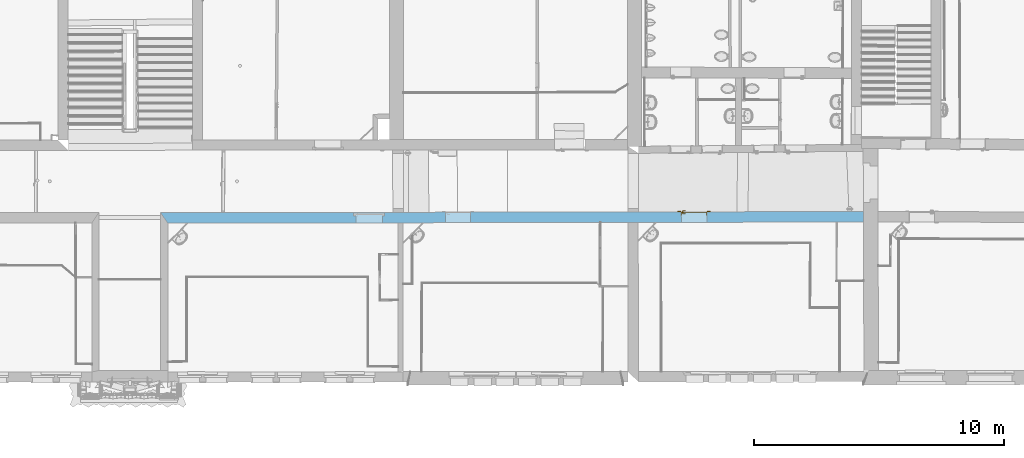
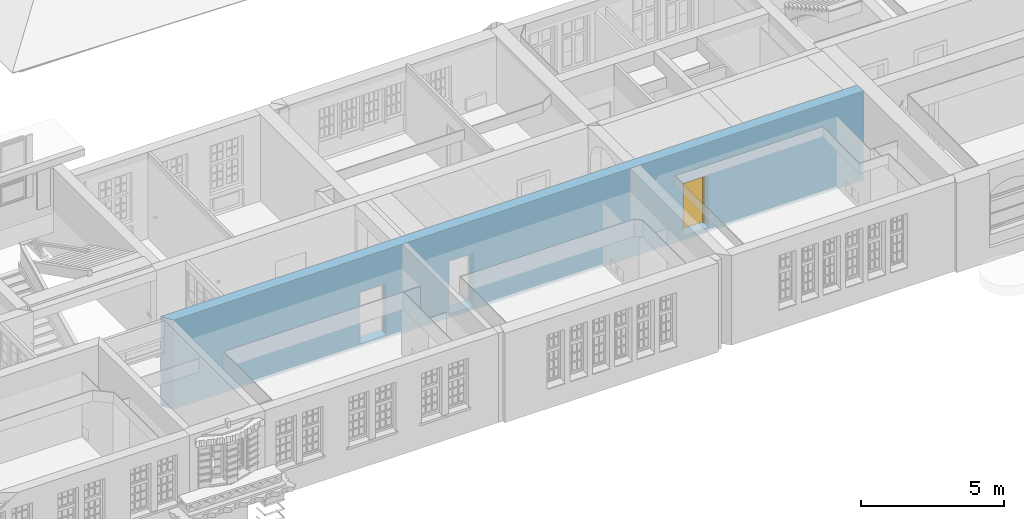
# One storey, part 78 of 158: 1 door, 3 openings, plus 1 element that does not belong to this part.
"""IFC2X3 building model written with IfcOpenShell, lengths in metres."""

from ifc_helpers import new_model, entity, si_unit, converted_unit, derived_unit, money_unit, direction, frame, origin_with_axes, origin_2d_with_axis, place, context, subcontext, project, spatial, polyline, rectangle, outline, extrude, open_shell, faceted_brep, surface_model, material, layer, layer_set, layer_usage, type_object, element, fill, save


model = new_model("IFC2X3")

# Units and contexts
model_context = context("Model", 3, precision=1e-05, world=origin_with_axes(), true_north=direction((0.0, 1.0)))
body_context = subcontext(model_context, "Body", "Model", "MODEL_VIEW")
ifc_project = project(units=[si_unit("LENGTHUNIT", "METRE"), si_unit("AREAUNIT", "SQUARE_METRE"), si_unit("VOLUMEUNIT", "CUBIC_METRE"), converted_unit("PLANEANGLEUNIT", "DEGREE", entity("IfcPlaneAngleMeasure", 0.0174532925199), si_unit("PLANEANGLEUNIT", "RADIAN"), dimensions=[0, 0, 0, 0, 0, 0, 0]), money_unit("EUR"), converted_unit("TIMEUNIT", "Year", entity("IfcTimeMeasure", 31556926.0), si_unit("TIMEUNIT", "SECOND"), dimensions=[0, 0, 1, 0, 0, 0, 0]), si_unit("MASSUNIT", "GRAM", prefix="KILO"), si_unit("THERMODYNAMICTEMPERATUREUNIT", "DEGREE_CELSIUS"), si_unit("LUMINOUSINTENSITYUNIT", "LUMEN"), si_unit("ENERGYUNIT", "JOULE", prefix="MEGA"), derived_unit("THERMALCONDUCTANCEUNIT", [(si_unit("POWERUNIT", "WATT"), 1), (si_unit("LENGTHUNIT", "METRE"), -1), (si_unit("THERMODYNAMICTEMPERATUREUNIT", "KELVIN"), -1)]), derived_unit("SPECIFICHEATCAPACITYUNIT", [(si_unit("ENERGYUNIT", "JOULE"), 1), (si_unit("MASSUNIT", "GRAM", prefix="KILO"), -1), (si_unit("THERMODYNAMICTEMPERATUREUNIT", "KELVIN"), -1)]), derived_unit("MASSDENSITYUNIT", [(si_unit("MASSUNIT", "GRAM", prefix="KILO"), 1), (si_unit("VOLUMEUNIT", "CUBIC_METRE"), -1)])], contexts=[model_context])

# Site, building, storey
site_placement = place(None, origin_with_axes())
site = spatial("IfcSite", under=ifc_project, at=site_placement, Name="Gelände", CompositionType="ELEMENT")
building_placement = place(site_placement, origin_with_axes())
building = spatial("IfcBuilding", under=site, at=building_placement, Name="Gebäude", CompositionType="ELEMENT")
storey_placement = place(building_placement, origin_with_axes())
storey = spatial("IfcBuildingStorey", under=building, at=storey_placement, Name="ERDGESCHOSS", CompositionType="ELEMENT", Elevation=0.0)

# Wall, openings, door
ifc_material = material(Name="05_ALLGEMEIN - TRAGENDE BAUTEILE")
ifc_layer = layer(ifc_material, 0.42, ventilated="UNKNOWN")
ifc_layer_set = layer_set([ifc_layer], Name="05_ALLGEMEIN - TRAGENDE BAUTEILE 0.42")
ifc_layer_usage = layer_usage(ifc_layer_set, "AXIS2", "NEGATIVE", 0.42)
wall_type = type_object("IfcWallType", Name="05_ALLGEMEIN - TRAGENDE BAUTEILE 420", PredefinedType="ELEMENTEDWALL")
wall_placement = place(storey_placement, frame((21.9714720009, 16.8199423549, -0.21), z_axis=(0.0, 0.0, 1.0), x_axis=(-0.999998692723, -0.00161695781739, 0.0)))
wall = element("IfcWallStandardCase", 1, at=wall_placement, inside=storey, type_object=wall_type, material=ifc_layer_usage, Name="Wand-036", ObjectType="ELEMENTEDWALL", context=body_context, shape_type="SweptSolid", body=[
    extrude(outline(polyline([(0.0, 0.0), (28.1196278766, 0.0), (27.8302322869, 0.42), (-0.000643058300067, 0.42), (0.0, 0.0)])), origin_with_axes(), (0.0, 0.0, 1.0), 3.81),
])
opening_1_placement = place(wall_placement, frame((16.2172151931, 0.0, 0.166246), z_axis=(0.0, 0.0, 1.0), x_axis=(1.0, 0.0, 0.0)))
element("IfcOpeningElement", 2, at=opening_1_placement, cuts=wall, Name="Tür-022", context=body_context, shape_type="SweptSolid", body=[
    extrude(rectangle(XDim=1.00454069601, YDim=2.250558, at=origin_2d_with_axis()), frame((0.0, -0.42, 1.125279), z_axis=(0.0, 1.0, 0.0), x_axis=(-1.0, 0.0, 0.0)), (0.0, 0.0, 1.0), 1.26),
])
opening_2_placement = place(wall_placement, frame((6.77188532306, 0.0, 0.188019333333), z_axis=(0.0, 0.0, 1.0), x_axis=(1.0, 0.0, 0.0)))
opening_2 = element("IfcOpeningElement", 3, at=opening_2_placement, cuts=wall, Name="Tür-022", context=body_context, shape_type="SweptSolid", body=[
    extrude(rectangle(XDim=1.03194822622, YDim=2.22878466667, at=origin_2d_with_axis()), frame((0.0, -0.42, 1.11439233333), z_axis=(0.0, 1.0, 0.0), x_axis=(-1.0, 0.0, 0.0)), (0.0, 0.0, 1.0), 1.26),
])
opening_3_placement = place(wall_placement, frame((19.7783409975, 0.0, 0.156249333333), z_axis=(0.0, 0.0, 1.0), x_axis=(1.0, 0.0, 0.0)))
element("IfcOpeningElement", 4, at=opening_3_placement, cuts=wall, Name="Tür-022", context=body_context, shape_type="SweptSolid", body=[
    extrude(rectangle(XDim=1.05907517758, YDim=2.193751, at=origin_2d_with_axis()), frame((0.0, 0.14, 1.0968755), z_axis=(0.0, -1.0, 0.0), x_axis=(-1.0, 0.0, 0.0)), (0.0, 0.0, -1.0), 0.7),
    extrude(rectangle(XDim=1.23907517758, YDim=2.283751, at=origin_2d_with_axis()), frame((0.0, 0.05, 1.1418755), z_axis=(0.0, 1.0, 0.0), x_axis=(-1.0, 0.0, 0.0)), (0.0, 0.0, 1.0), 0.09),
    extrude(rectangle(XDim=1.23907517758, YDim=2.283751, at=origin_2d_with_axis()), frame((0.0, 0.05, 1.1418755), z_axis=(0.0, 1.0, 0.0), x_axis=(-1.0, 0.0, 0.0)), (0.0, 0.0, -1.0), 0.47),
])
door_style = type_object("IfcDoorStyle", Name="Blockrahmentür 1-Fl 25", ConstructionType="NOTDEFINED", OperationType="SINGLE_SWING_RIGHT", ParameterTakesPrecedence=False, Sizeable=False)
door_placement = place(opening_2_placement, frame((0.500974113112, 0.0, 0.0), z_axis=(0.0, 0.0, 1.0), x_axis=(-1.0, 0.0, 0.0)))
door = element("IfcDoor", 5, at=door_placement, inside=storey, type_object=door_style, Name="Tür-022", ObjectType="NOTDEFINED", OverallHeight=2.22878, OverallWidth=1.03195, context=body_context, shape_type="SurfaceModel", body=[
    faceted_brep([(1.01694822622, -0.14, 0.0), (1.01694822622, -0.035, 0.0), (1.01694822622, -0.035, 2.22878466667), (1.01694822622, -0.14, 2.22878466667), (1.00194822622, -0.14, 0.0), (1.00194822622, -0.035, 0.0), (1.00194822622, -0.035, 2.21378466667), (0.616074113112, -0.035, 2.21378466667), (0.501074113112, -0.035, 2.21378466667), (0.0, -0.035, 2.21378466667), (0.0, -0.035, 0.0), (-0.015, -0.035, 0.0), (-0.015, -0.035, 2.22878466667), (-0.015, -0.14, 2.22878466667), (-0.015, -0.14, 0.0), (0.0, -0.14, 0.0), (0.0, -0.14, 2.21378466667), (0.501074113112, -0.14, 2.21378466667), (0.616074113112, -0.14, 2.21378466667), (1.00194822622, -0.14, 2.21378466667)], [[[0, 1, 2, 3]], [[4, 5, 1, 0]], [[1, 5, 6, 7, 8, 9, 10, 11, 12, 2]], [[3, 2, 12, 13]], [[0, 3, 13, 14, 15, 16, 17, 18, 19, 4]], [[19, 6, 5, 4]], [[18, 7, 6, 19]], [[17, 8, 7, 18]], [[16, 9, 8, 17]], [[15, 10, 9, 16]], [[14, 11, 10, 15]], [[13, 12, 11, 14]]]),
    surface_model("IfcShellBasedSurfaceModel", [(1.01694822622, -0.035, 0.0), (1.01694822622, 0.03, 0.0), (1.01694822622, 0.03, 2.22878466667), (1.01694822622, -0.035, 2.22878466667), (1.01694822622, -0.035, 2.22878466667), (1.01694822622, 0.03, 2.22878466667), (0.601074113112, 0.03, 2.22878466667), (0.516074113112, 0.03, 2.22878466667), (-0.015, 0.03, 2.22878466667), (-0.015, 0.03, 2.22878466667), (-0.015, -0.035, 2.22878466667), (0.516074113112, -0.035, 2.22878466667), (0.601074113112, -0.035, 2.22878466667), (-0.015, -0.035, 2.22878466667), (-0.015, -0.035, 0.0), (-0.015, 0.03, 0.0)], [open_shell([[[0, 1, 2, 3]], [[4, 5, 1, 0]], [[6, 7, 8, 2]], [[3, 2, 9, 10]], [[10, 11, 12, 4]], [[12, 6, 5, 4]], [[11, 7, 6, 12]], [[13, 8, 7, 11]], [[14, 15, 8, 13]], [[10, 9, 15, 14]]])]),
    faceted_brep([(1.16194822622, 0.0, 0.0), (1.16194822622, 0.03, 0.0), (1.16194822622, 0.03, 2.37378466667), (1.16194822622, 0.0, 2.37378466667), (1.01694822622, 0.0, 0.0), (1.01694822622, 0.03, 0.0), (1.01694822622, 0.03, 2.22878466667), (-0.015, 0.03, 2.22878466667), (-0.015, 0.03, 0.0), (-0.16, 0.03, 0.0), (-0.16, 0.03, 2.37378466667), (-0.16, 0.0, 2.37378466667), (-0.16, 0.0, 0.0), (-0.015, 0.0, 0.0), (-0.015, 0.0, 2.22878466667), (1.01694822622, 0.0, 2.22878466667)], [[[0, 1, 2, 3]], [[4, 5, 1, 0]], [[1, 5, 6, 7, 8, 9, 10, 2]], [[3, 2, 10, 11]], [[0, 3, 11, 12, 13, 14, 15, 4]], [[15, 6, 5, 4]], [[14, 7, 6, 15]], [[13, 8, 7, 14]], [[12, 9, 8, 13]], [[11, 10, 9, 12]]]),
    faceted_brep([(1.01694822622, 0.002, 0.0), (-0.015, 0.002, 0.0), (-0.015, 0.002, 2.22878466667), (1.01694822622, 0.002, 2.22878466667), (1.01694822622, -0.035, 0.0), (-0.015, -0.035, 0.0), (-0.015, -0.035, 2.22878466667), (1.01694822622, -0.035, 2.22878466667)], [[[0, 1, 2, 3]], [[1, 0, 4, 5]], [[2, 1, 5, 6]], [[3, 2, 6, 7]], [[0, 3, 7, 4]], [[5, 4, 7, 6]]]),
    faceted_brep([(0.0402977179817, -0.075, 1.05647213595), (0.045, -0.075, 1.058), (0.045, -0.055, 1.058), (0.0402977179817, -0.055, 1.05647213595), (0.0373915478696, -0.075, 1.05247213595), (0.0373915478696, -0.075, 1.04752786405), (0.0402977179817, -0.075, 1.04352786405), (0.045, -0.075, 1.042), (0.0497022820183, -0.075, 1.04352786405), (0.0526084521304, -0.075, 1.04752786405), (0.0526084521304, -0.075, 1.05247213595), (0.0497022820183, -0.075, 1.05647213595), (0.0497022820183, -0.055, 1.05647213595), (0.045, -0.053, 1.06), (0.0391221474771, -0.053, 1.05809016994), (0.0373915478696, -0.055, 1.05247213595), (0.0373915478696, -0.055, 1.04752786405), (0.0402977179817, -0.055, 1.04352786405), (0.045, -0.055, 1.042), (0.0497022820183, -0.055, 1.04352786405), (0.0526084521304, -0.055, 1.04752786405), (0.0526084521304, -0.055, 1.05247213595), (0.0508778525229, -0.053, 1.05809016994), (0.045, -0.045, 1.06), (0.0391221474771, -0.045, 1.05809016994), (0.035489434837, -0.053, 1.05309016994), (0.035489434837, -0.053, 1.04690983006), (0.0391221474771, -0.053, 1.04190983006), (0.045, -0.053, 1.04), (0.0508778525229, -0.053, 1.04190983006), (0.054510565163, -0.053, 1.04690983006), (0.054510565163, -0.053, 1.05309016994), (0.0508778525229, -0.045, 1.05809016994), (0.054510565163, -0.045, 1.05309016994), (0.054510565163, -0.045, 1.04690983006), (0.0508778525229, -0.045, 1.04190983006), (0.045, -0.045, 1.04), (0.0391221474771, -0.045, 1.04190983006), (0.035489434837, -0.045, 1.04690983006), (0.035489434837, -0.045, 1.05309016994)], [[[0, 1, 2, 3]], [[1, 0, 4, 5, 6, 7, 8, 9, 10, 11]], [[1, 11, 12, 2]], [[3, 2, 13, 14]], [[4, 0, 3, 15]], [[5, 4, 15, 16]], [[6, 5, 16, 17]], [[7, 6, 17, 18]], [[8, 7, 18, 19]], [[9, 8, 19, 20]], [[10, 9, 20, 21]], [[11, 10, 21, 12]], [[2, 12, 22, 13]], [[14, 13, 23, 24]], [[15, 3, 14, 25]], [[16, 15, 25, 26]], [[17, 16, 26, 27]], [[18, 17, 27, 28]], [[19, 18, 28, 29]], [[20, 19, 29, 30]], [[21, 20, 30, 31]], [[12, 21, 31, 22]], [[13, 22, 32, 23]], [[23, 32, 33, 34, 35, 36, 37, 38, 39, 24]], [[25, 14, 24, 39]], [[26, 25, 39, 38]], [[27, 26, 38, 37]], [[28, 27, 37, 36]], [[29, 28, 36, 35]], [[30, 29, 35, 34]], [[31, 30, 34, 33]], [[22, 31, 33, 32]]]),
    faceted_brep([(0.0571883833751, -0.045, 1.11759695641), (0.0494435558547, -0.045, 1.12195567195), (0.0405564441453, -0.045, 1.12195567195), (0.0328116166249, -0.045, 1.11759695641), (0.0282, -0.045, 1.11), (0.0225, -0.045, 1.11), (0.0225, -0.045, 0.89), (0.0282, -0.045, 0.89), (0.0328116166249, -0.045, 0.882403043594), (0.0405564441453, -0.045, 0.878044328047), (0.0494435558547, -0.045, 0.878044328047), (0.0571883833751, -0.045, 0.882403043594), (0.0618, -0.045, 0.89), (0.0675, -0.045, 0.89), (0.0675, -0.045, 1.11), (0.0618, -0.045, 1.11), (0.045, -0.045, 0.967425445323), (0.050375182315, -0.045, 0.965143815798), (0.0524678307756, -0.045, 0.959692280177), (0.05, -0.045, 0.9544), (0.05, -0.045, 0.9375), (0.0485355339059, -0.045, 0.933964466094), (0.045, -0.045, 0.9325), (0.0414644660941, -0.045, 0.933964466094), (0.04, -0.045, 0.9375), (0.04, -0.045, 0.9544), (0.0375321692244, -0.045, 0.959692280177), (0.039624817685, -0.045, 0.965143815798), (0.0571883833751, -0.035, 1.11759695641), (0.0494435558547, -0.035, 1.12195567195), (0.0405564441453, -0.035, 1.12195567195), (0.0328116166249, -0.035, 1.11759695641), (0.0282, -0.035, 1.11), (0.0225, -0.035, 1.11), (0.0225, -0.035, 0.89), (0.0282, -0.035, 0.89), (0.0328116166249, -0.035, 0.882403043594), (0.0405564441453, -0.035, 0.878044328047), (0.0494435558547, -0.035, 0.878044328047), (0.0571883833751, -0.035, 0.882403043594), (0.0618, -0.035, 0.89), (0.0675, -0.035, 0.89), (0.0675, -0.035, 1.11), (0.0618, -0.035, 1.11), (0.045, -0.035, 0.967425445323), (0.050375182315, -0.035, 0.965143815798), (0.0524678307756, -0.035, 0.959692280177), (0.05, -0.035, 0.9544), (0.05, -0.035, 0.9375), (0.0485355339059, -0.035, 0.933964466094), (0.045, -0.035, 0.9325), (0.0414644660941, -0.035, 0.933964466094), (0.04, -0.035, 0.9375), (0.04, -0.035, 0.9544), (0.0375321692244, -0.035, 0.959692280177), (0.039624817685, -0.035, 0.965143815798)], [[[0, 1, 2, 3, 4, 5, 6, 7, 8, 9, 10, 11, 12, 13, 14, 15], [16, 17, 18, 19, 20, 21, 22, 23, 24, 25, 26, 27]], [[1, 0, 28, 29]], [[2, 1, 29, 30]], [[3, 2, 30, 31]], [[4, 3, 31, 32]], [[5, 4, 32, 33]], [[6, 5, 33, 34]], [[7, 6, 34, 35]], [[8, 7, 35, 36]], [[9, 8, 36, 37]], [[10, 9, 37, 38]], [[11, 10, 38, 39]], [[12, 11, 39, 40]], [[13, 12, 40, 41]], [[14, 13, 41, 42]], [[15, 14, 42, 43]], [[0, 15, 43, 28]], [[17, 16, 44, 45]], [[18, 17, 45, 46]], [[19, 18, 46, 47]], [[19, 47, 48, 20]], [[20, 48, 49, 21]], [[21, 49, 50, 22]], [[22, 50, 51, 23]], [[23, 51, 52, 24]], [[53, 25, 24, 52]], [[26, 25, 53, 54]], [[27, 26, 54, 55]], [[16, 27, 55, 44]], [[40, 39, 38, 37, 36, 35, 34, 33, 32, 31, 30, 29, 28, 43, 42, 41], [54, 53, 52, 51, 50, 49, 48, 47, 46, 45, 44, 55]]]),
    faceted_brep([(0.159253, -0.075, 1.057158), (0.159253, -0.09, 1.057158), (0.159254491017, -0.09, 1.05719388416), (0.159254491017, -0.075, 1.05719388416), (0.132225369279, -0.075, 1.06432652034), (0.132225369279, -0.09, 1.06432652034), (0.104397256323, -0.09, 1.06706086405), (0.0764912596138, -0.09, 1.06529002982), (0.049232, -0.09, 1.05906), (0.0428294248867, -0.09, 1.05976125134), (0.0373273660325, -0.09, 1.05641280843), (0.0350084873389, -0.09, 1.05040385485), (0.0368348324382, -0.09, 1.04422735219), (0.0420486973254, -0.09, 1.04044577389), (0.0484869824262, -0.09, 1.04062800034), (0.0534786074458, -0.09, 1.04469843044), (0.053458, -0.09, 1.044666), (0.0787467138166, -0.09, 1.05019878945), (0.104589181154, -0.09, 1.05171460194), (0.130351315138, -0.09, 1.04917624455), (0.155401, -0.09, 1.042646), (0.160944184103, -0.09, 1.04356849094), (0.16430572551, -0.09, 1.04807159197), (0.163614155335, -0.09, 1.05364829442), (0.163614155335, -0.075, 1.05364829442), (0.16430572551, -0.075, 1.04807159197), (0.160944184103, -0.075, 1.04356849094), (0.155401, -0.075, 1.042646), (0.130351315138, -0.075, 1.04917624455), (0.104589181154, -0.075, 1.05171460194), (0.0787467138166, -0.075, 1.05019878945), (0.053458, -0.075, 1.044666), (0.0534786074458, -0.075, 1.04469843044), (0.0484869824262, -0.075, 1.04062800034), (0.0420486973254, -0.075, 1.04044577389), (0.0368348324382, -0.075, 1.04422735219), (0.0350084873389, -0.075, 1.05040385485), (0.0373273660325, -0.075, 1.05641280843), (0.0428294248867, -0.075, 1.05976125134), (0.049232, -0.075, 1.05906), (0.0764912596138, -0.075, 1.06529002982), (0.104397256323, -0.075, 1.06706086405)], [[[0, 1, 2, 3]], [[4, 5, 1, 0]], [[1, 5, 6, 7, 8, 9, 10, 11, 12, 13, 14, 15, 16, 17, 18, 19, 20, 21, 22, 23, 2]], [[3, 2, 23, 24]], [[0, 3, 24, 25, 26, 27, 28, 29, 30, 31, 32, 33, 34, 35, 36, 37, 38, 39, 40, 41, 4]], [[41, 6, 5, 4]], [[40, 7, 6, 41]], [[39, 8, 7, 40]], [[38, 9, 8, 39]], [[37, 10, 9, 38]], [[36, 11, 10, 37]], [[35, 12, 11, 36]], [[34, 13, 12, 35]], [[33, 14, 13, 34]], [[32, 15, 14, 33]], [[31, 16, 15, 32]], [[30, 17, 16, 31]], [[29, 18, 17, 30]], [[28, 19, 18, 29]], [[27, 20, 19, 28]], [[26, 21, 20, 27]], [[25, 22, 21, 26]], [[24, 23, 22, 25]]]),
    faceted_brep([(0.0402977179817, 0.042, 1.05647213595), (0.0402977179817, 0.022, 1.05647213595), (0.045, 0.022, 1.058), (0.045, 0.042, 1.058), (0.0373915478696, 0.042, 1.05247213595), (0.0373915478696, 0.022, 1.05247213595), (0.0391221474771, 0.02, 1.05809016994), (0.045, 0.02, 1.06), (0.0497022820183, 0.022, 1.05647213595), (0.0497022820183, 0.042, 1.05647213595), (0.0526084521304, 0.042, 1.05247213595), (0.0526084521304, 0.042, 1.04752786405), (0.0497022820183, 0.042, 1.04352786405), (0.045, 0.042, 1.042), (0.0402977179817, 0.042, 1.04352786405), (0.0373915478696, 0.042, 1.04752786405), (0.0373915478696, 0.022, 1.04752786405), (0.035489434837, 0.02, 1.05309016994), (0.0391221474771, 0.012, 1.05809016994), (0.045, 0.012, 1.06), (0.0508778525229, 0.02, 1.05809016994), (0.0526084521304, 0.022, 1.05247213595), (0.0526084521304, 0.022, 1.04752786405), (0.0497022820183, 0.022, 1.04352786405), (0.045, 0.022, 1.042), (0.0402977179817, 0.022, 1.04352786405), (0.035489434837, 0.02, 1.04690983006), (0.035489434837, 0.012, 1.05309016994), (0.035489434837, 0.012, 1.04690983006), (0.0391221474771, 0.012, 1.04190983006), (0.045, 0.012, 1.04), (0.0508778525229, 0.012, 1.04190983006), (0.054510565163, 0.012, 1.04690983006), (0.054510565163, 0.012, 1.05309016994), (0.0508778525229, 0.012, 1.05809016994), (0.054510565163, 0.02, 1.05309016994), (0.054510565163, 0.02, 1.04690983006), (0.0508778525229, 0.02, 1.04190983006), (0.045, 0.02, 1.04), (0.0391221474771, 0.02, 1.04190983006)], [[[0, 1, 2, 3]], [[4, 5, 1, 0]], [[1, 6, 7, 2]], [[3, 2, 8, 9]], [[3, 9, 10, 11, 12, 13, 14, 15, 4, 0]], [[15, 16, 5, 4]], [[5, 17, 6, 1]], [[6, 18, 19, 7]], [[2, 7, 20, 8]], [[9, 8, 21, 10]], [[10, 21, 22, 11]], [[11, 22, 23, 12]], [[12, 23, 24, 13]], [[13, 24, 25, 14]], [[14, 25, 16, 15]], [[16, 26, 17, 5]], [[17, 27, 18, 6]], [[19, 18, 27, 28, 29, 30, 31, 32, 33, 34]], [[7, 19, 34, 20]], [[8, 20, 35, 21]], [[21, 35, 36, 22]], [[22, 36, 37, 23]], [[23, 37, 38, 24]], [[24, 38, 39, 25]], [[25, 39, 26, 16]], [[26, 28, 27, 17]], [[39, 29, 28, 26]], [[38, 30, 29, 39]], [[37, 31, 30, 38]], [[36, 32, 31, 37]], [[35, 33, 32, 36]], [[20, 34, 33, 35]]]),
    faceted_brep([(0.0571883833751, 0.002, 1.11759695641), (0.0494435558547, 0.002, 1.12195567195), (0.0405564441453, 0.002, 1.12195567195), (0.0328116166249, 0.002, 1.11759695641), (0.0282, 0.00200000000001, 1.11), (0.0225, 0.002, 1.11), (0.0225, 0.002, 0.89), (0.0282, 0.00200000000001, 0.89), (0.0328116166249, 0.002, 0.882403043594), (0.0405564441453, 0.002, 0.878044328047), (0.0494435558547, 0.002, 0.878044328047), (0.0571883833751, 0.002, 0.882403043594), (0.0618, 0.002, 0.89), (0.0675, 0.00200000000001, 0.89), (0.0675, 0.00200000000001, 1.11), (0.0618, 0.002, 1.11), (0.045, 0.002, 0.967425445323), (0.050375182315, 0.002, 0.965143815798), (0.0524678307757, 0.002, 0.959692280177), (0.05, 0.002, 0.9544), (0.05, 0.002, 0.9375), (0.0485355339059, 0.002, 0.933964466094), (0.045, 0.002, 0.9325), (0.0414644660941, 0.00200000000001, 0.933964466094), (0.04, 0.002, 0.9375), (0.04, 0.002, 0.9544), (0.0375321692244, 0.002, 0.959692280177), (0.039624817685, 0.002, 0.965143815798), (0.0494435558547, 0.012, 1.12195567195), (0.0571883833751, 0.012, 1.11759695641), (0.0405564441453, 0.012, 1.12195567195), (0.0328116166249, 0.012, 1.11759695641), (0.0282, 0.012, 1.11), (0.0225, 0.012, 1.11), (0.0225, 0.012, 0.89), (0.0282, 0.012, 0.89), (0.0328116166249, 0.012, 0.882403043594), (0.0405564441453, 0.012, 0.878044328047), (0.0494435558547, 0.012, 0.878044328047), (0.0571883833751, 0.012, 0.882403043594), (0.0618, 0.012, 0.89), (0.0675, 0.012, 0.89), (0.0675, 0.012, 1.11), (0.0618, 0.012, 1.11), (0.045, 0.012, 0.967425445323), (0.050375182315, 0.012, 0.965143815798), (0.0524678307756, 0.012, 0.959692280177), (0.05, 0.012, 0.9544), (0.05, 0.012, 0.9375), (0.0485355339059, 0.012, 0.933964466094), (0.045, 0.012, 0.9325), (0.0414644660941, 0.012, 0.933964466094), (0.04, 0.012, 0.9375), (0.04, 0.012, 0.9544), (0.0375321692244, 0.012, 0.959692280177), (0.039624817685, 0.012, 0.965143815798)], [[[0, 1, 2, 3, 4, 5, 6, 7, 8, 9, 10, 11, 12, 13, 14, 15], [16, 17, 18, 19, 20, 21, 22, 23, 24, 25, 26, 27]], [[28, 1, 0, 29]], [[30, 2, 1, 28]], [[31, 3, 2, 30]], [[32, 4, 3, 31]], [[33, 5, 4, 32]], [[34, 6, 5, 33]], [[35, 7, 6, 34]], [[36, 8, 7, 35]], [[37, 9, 8, 36]], [[38, 10, 9, 37]], [[39, 11, 10, 38]], [[40, 12, 11, 39]], [[41, 13, 12, 40]], [[42, 14, 13, 41]], [[43, 15, 14, 42]], [[29, 0, 15, 43]], [[17, 16, 44, 45]], [[18, 17, 45, 46]], [[19, 18, 46, 47]], [[19, 47, 48, 20]], [[20, 48, 49, 21]], [[21, 49, 50, 22]], [[22, 50, 51, 23]], [[23, 51, 52, 24]], [[53, 25, 24, 52]], [[26, 25, 53, 54]], [[27, 26, 54, 55]], [[16, 27, 55, 44]], [[40, 39, 38, 37, 36, 35, 34, 33, 32, 31, 30, 28, 29, 43, 42, 41], [54, 53, 52, 51, 50, 49, 48, 47, 46, 45, 44, 55]]]),
    faceted_brep([(0.159253, 0.042, 1.057158), (0.159254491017, 0.042, 1.05719388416), (0.159254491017, 0.057, 1.05719388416), (0.159253, 0.057, 1.057158), (0.132225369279, 0.042, 1.06432652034), (0.104397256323, 0.042, 1.06706086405), (0.0764912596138, 0.042, 1.06529002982), (0.049232, 0.042, 1.05906), (0.0428294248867, 0.042, 1.05976125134), (0.0373273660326, 0.042, 1.05641280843), (0.0350084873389, 0.042, 1.05040385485), (0.0368348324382, 0.042, 1.04422735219), (0.0420486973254, 0.042, 1.04044577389), (0.0484869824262, 0.042, 1.04062800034), (0.0534786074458, 0.042, 1.04469843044), (0.053458, 0.042, 1.044666), (0.0787467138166, 0.042, 1.05019878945), (0.104589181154, 0.042, 1.05171460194), (0.130351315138, 0.042, 1.04917624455), (0.155401, 0.042, 1.042646), (0.160944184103, 0.042, 1.04356849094), (0.16430572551, 0.042, 1.04807159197), (0.163614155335, 0.042, 1.05364829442), (0.163614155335, 0.057, 1.05364829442), (0.16430572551, 0.057, 1.04807159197), (0.160944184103, 0.057, 1.04356849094), (0.155401, 0.057, 1.042646), (0.130351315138, 0.057, 1.04917624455), (0.104589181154, 0.057, 1.05171460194), (0.0787467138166, 0.057, 1.05019878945), (0.053458, 0.057, 1.044666), (0.0534786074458, 0.057, 1.04469843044), (0.0484869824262, 0.057, 1.04062800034), (0.0420486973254, 0.057, 1.04044577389), (0.0368348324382, 0.057, 1.04422735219), (0.0350084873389, 0.057, 1.05040385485), (0.0373273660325, 0.057, 1.05641280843), (0.0428294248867, 0.057, 1.05976125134), (0.049232, 0.057, 1.05906), (0.0764912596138, 0.057, 1.06529002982), (0.104397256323, 0.057, 1.06706086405), (0.132225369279, 0.057, 1.06432652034)], [[[0, 1, 2, 3]], [[0, 4, 5, 6, 7, 8, 9, 10, 11, 12, 13, 14, 15, 16, 17, 18, 19, 20, 21, 22, 1]], [[1, 22, 23, 2]], [[3, 2, 23, 24, 25, 26, 27, 28, 29, 30, 31, 32, 33, 34, 35, 36, 37, 38, 39, 40, 41]], [[4, 0, 3, 41]], [[5, 4, 41, 40]], [[6, 5, 40, 39]], [[7, 6, 39, 38]], [[8, 7, 38, 37]], [[9, 8, 37, 36]], [[10, 9, 36, 35]], [[11, 10, 35, 34]], [[12, 11, 34, 33]], [[13, 12, 33, 32]], [[14, 13, 32, 31]], [[15, 14, 31, 30]], [[16, 15, 30, 29]], [[17, 16, 29, 28]], [[18, 17, 28, 27]], [[19, 18, 27, 26]], [[20, 19, 26, 25]], [[21, 20, 25, 24]], [[22, 21, 24, 23]]]),
])
fill(opening_2, door)

save(model, "model.ifc")
